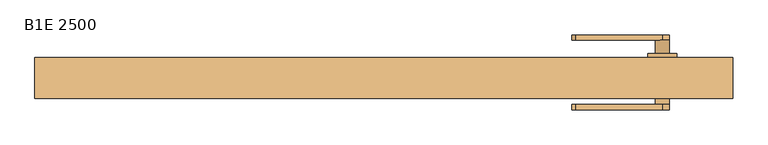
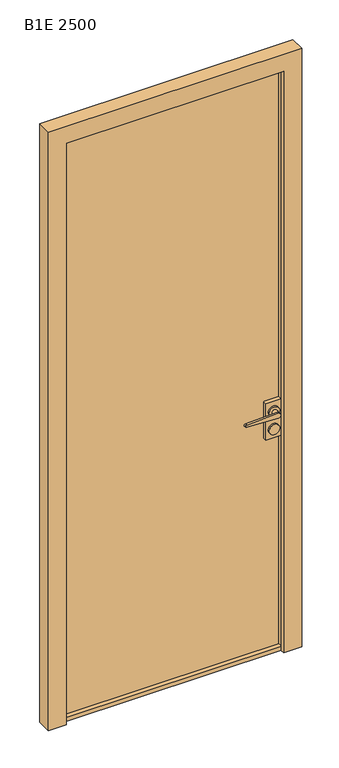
"""IFC4 building model written with IfcOpenShell, lengths in millimetres: door geometry, Mobiliário_Mobiliário de Escritório_Porta de Giro Emoldurada - BE_Marelli : B1E 2500."""

from ifc_helpers import new_model, si_unit, point, frame, frame_2d, origin, place, context, project, spatial, polyline, circle_curve, trimmed, segment, composite_curve, outline, extrude, faceted_brep, source, transform, mapped, element, save
from ifc_brep_helpers import plane_surface, cylinder_surface, advanced_brep


def b1e_2500_260b8c9e(model_context):
    return source(origin(), model_context, "Body", "SolidModel", [
        extrude(outline(polyline([(-447.5, 16.5), (-429.5, 16.5), (-429.5, -25.5), (-447.5, -25.5), (-447.5, 16.5)])), frame((0.0, 0.0, 0.2), z_axis=(0.0, 0.0, 1.0), x_axis=(1.0, 0.0, 0.0)), (0.0, 0.0, 1.0), 2448.3),
        extrude(outline(polyline([(447.5, 16.5), (447.5, -25.5), (429.5, -25.5), (429.5, 16.5), (447.5, 16.5)])), frame((0.0, 0.0, 0.2), z_axis=(0.0, 0.0, 1.0), x_axis=(1.0, 0.0, 0.0)), (0.0, 0.0, 1.0), 2448.3),
        extrude(outline(polyline([(2430.5, 429.5), (2430.5, -429.5), (18.2, -429.5), (18.2, 429.5), (896.8, 429.5), (896.8, 369.5), (1050.0, 369.5), (1050.0, 429.5), (2430.5, 429.5)])), frame((0.0, -8.5, 0.0), z_axis=(0.0, 1.0, 0.0), x_axis=(0.0, 0.0, 1.0)), (0.0, 0.0, 1.0), 8.0),
        faceted_brep([(-500.0, -42.5, 0.0), (-500.0, 16.5, 0.0), (-450.0, 16.5, 0.0), (-450.0, -27.0, 0.0), (-429.0, -27.0, 0.0), (-429.0, -42.5, 0.0), (500.0, -42.5, 0.0), (429.0, -42.5, 0.0), (429.0, -27.0, 0.0), (450.0, -27.0, 0.0), (450.0, 16.5, 0.0), (500.0, 16.5, 0.0), (-500.0, -42.5, 2500.0), (-500.0, 16.5, 2500.0), (500.0, 16.5, 2500.0), (450.0, 16.5, 2450.0), (-450.0, 16.5, 2450.0), (-450.0, -27.0, 2450.0), (450.0, -27.0, 2450.0), (429.0, -27.0, 2429.0), (-429.0, -27.0, 2429.0), (-429.0, -42.5, 2429.0), (500.0, -42.5, 2500.0), (429.0, -42.5, 2429.0)], [[[0, 1, 2, 3, 4, 5]], [[6, 7, 8, 9, 10, 11]], [[0, 12, 13, 1]], [[13, 14, 11, 10, 15, 16, 2, 1]], [[17, 3, 2, 16]], [[4, 3, 17, 18, 9, 8, 19, 20]], [[5, 4, 20, 21]], [[22, 12, 0, 5, 21, 23, 7, 6]], [[8, 7, 23, 19]], [[10, 9, 18, 15]], [[14, 22, 6, 11]], [[22, 14, 13, 12]], [[20, 19, 23, 21]], [[16, 15, 18, 17]]]),
        extrude(outline(polyline([(429.5, 16.5), (429.5, -25.5), (-429.5, -25.5), (-429.5, 16.5), (429.5, 16.5)])), frame((0.0, 0.0, 2430.5), z_axis=(0.0, 0.0, 1.0), x_axis=(1.0, 0.0, 0.0)), (0.0, 0.0, 1.0), 18.0),
        extrude(outline(polyline([(369.5, -23.55), (369.5, 14.55), (429.5, 14.55), (429.5, -23.55), (369.5, -23.55)])), frame((0.0, 0.0, 896.8), z_axis=(0.0, 0.0, 1.0), x_axis=(1.0, 0.0, 0.0)), (0.0, 0.0, 1.0), 153.2),
        extrude(outline(polyline([(429.5, 16.5), (429.5, -25.5), (-429.5, -25.5), (-429.5, 16.5), (429.5, 16.5)])), frame((0.0, 0.0, 0.2), z_axis=(0.0, 0.0, 1.0), x_axis=(1.0, 0.0, 0.0)), (0.0, 0.0, 1.0), 18.0),
        extrude(outline(composite_curve([segment(trimmed(circle_curve(frame_2d((936.55, 399.5)), 20.75), [point((936.55, 378.75))], [point((936.55, 420.25))], False, "CARTESIAN"), True, "CONTINUOUS"), segment(trimmed(circle_curve(frame_2d((936.55, 399.5)), 20.75), [point((936.55, 420.25))], [point((936.55, 378.75))], False, "CARTESIAN"), True, "CONTINUOUS")], self_intersect=False)), frame((0.0, 14.55, 0.0), z_axis=(0.0, 1.0, 0.0), x_axis=(0.0, 0.0, 1.0)), (0.0, 0.0, 1.0), 8.0),
        extrude(outline(composite_curve([segment(trimmed(circle_curve(frame_2d((936.55, 399.5)), 20.75), [point((936.55, 378.75))], [point((936.55, 420.25))], False, "CARTESIAN"), True, "CONTINUOUS"), segment(trimmed(circle_curve(frame_2d((936.55, 399.5)), 20.75), [point((936.55, 420.25))], [point((936.55, 378.75))], False, "CARTESIAN"), True, "CONTINUOUS")], self_intersect=False)), frame((0.0, -31.55, 0.0), z_axis=(0.0, 1.0, 0.0), x_axis=(0.0, 0.0, 1.0)), (0.0, 0.0, 1.0), 8.0),
        extrude(outline(composite_curve([segment(trimmed(circle_curve(frame_2d((1010.25, 399.5)), 20.75), [point((1010.25, 378.75))], [point((1010.25, 420.25))], False, "CARTESIAN"), True, "CONTINUOUS"), segment(trimmed(circle_curve(frame_2d((1010.25, 399.5)), 20.75), [point((1010.25, 420.25))], [point((1010.25, 378.75))], False, "CARTESIAN"), True, "CONTINUOUS")], self_intersect=False)), frame((0.0, -31.55, 0.0), z_axis=(0.0, 1.0, 0.0), x_axis=(0.0, 0.0, 1.0)), (0.0, 0.0, 1.0), 8.0),
        extrude(outline(composite_curve([segment(trimmed(circle_curve(frame_2d((1010.25, 399.5)), 20.75), [point((1010.25, 378.75))], [point((1010.25, 420.25))], False, "CARTESIAN"), True, "CONTINUOUS"), segment(trimmed(circle_curve(frame_2d((1010.25, 399.5)), 20.75), [point((1010.25, 420.25))], [point((1010.25, 378.75))], False, "CARTESIAN"), True, "CONTINUOUS")], self_intersect=False)), frame((0.0, 14.55, 0.0), z_axis=(0.0, 1.0, 0.0), x_axis=(0.0, 0.0, 1.0)), (0.0, 0.0, 1.0), 8.0),
        advanced_brep(
        [(389.5, 22.55, 1010.25), (409.5, 22.55, 1010.25), (409.5, 41.55, 1010.25), (399.0996794, 41.55, 1020.241984), (389.5, 41.55, 1010.25), (399.0996794, 41.55, 1000.258016), (274.5, 41.55, 1015.25), (274.5, 41.55, 1005.25), (399.0996794, 49.2, 1000.258016), (274.5, 49.2, 1005.25), (274.5, 49.2, 1015.25), (399.0996794, 49.2, 1020.241984)],
        [
            (0, 1, circle_curve(frame((399.5, 22.55, 1010.25), z_axis=(0.0, -1.0, 0.0), x_axis=(1.0, 0.0, 0.0)), 10.0)),
            (1, 0, circle_curve(frame((399.5, 22.55, 1010.25), z_axis=(0.0, -1.0, 0.0), x_axis=(1.0, 0.0, 0.0)), 10.0)),
            (1, 2),
            (2, 3, circle_curve(frame((399.5, 41.55, 1010.25), z_axis=(0.0, -1.0, 0.0), x_axis=(1.0, 0.0, 0.0)), 10.0)),
            (3, 4, circle_curve(frame((399.5, 41.55, 1010.25), z_axis=(0.0, -1.0, 0.0), x_axis=(1.0, 0.0, 0.0)), 10.0)),
            (4, 0),
            (4, 5, circle_curve(frame((399.5, 41.55, 1010.25), z_axis=(0.0, -1.0, 0.0), x_axis=(1.0, 0.0, 0.0)), 10.0)),
            (5, 2, circle_curve(frame((399.5, 41.55, 1010.25), z_axis=(0.0, -1.0, 0.0), x_axis=(1.0, 0.0, 0.0)), 10.0)),
            (3, 6),
            (6, 7, circle_curve(frame((274.5, 41.55, 1010.25), z_axis=(0.0, -1.0, 0.0), x_axis=(1.0, 0.0, 0.0)), 5.0)),
            (7, 5),
            (8, 9),
            (9, 10, circle_curve(frame((274.5, 49.2, 1010.25), z_axis=(0.0, 1.0, 0.0), x_axis=(1.0, 0.0, 0.0)), 5.0)),
            (10, 11),
            (11, 8, circle_curve(frame((399.5, 49.2, 1010.25), z_axis=(0.0, 1.0, 0.0), x_axis=(1.0, 0.0, 0.0)), 10.0)),
            (7, 9),
            (8, 5),
            (6, 10),
            (3, 11),
        ],
        [
            plane_surface(frame((409.5, 22.55, 1010.25), z_axis=(0.0, -1.0, 0.0), x_axis=(0.0, 0.0, 1.0))),
            cylinder_surface(frame((399.5, 22.55, 1010.25), z_axis=(0.0, 1.0, 0.0), x_axis=(1.0, 0.0, 0.0)), 10.0),
            plane_surface(frame((399.0996794, 41.55, 1000.258016), z_axis=(0.0, -1.0, 0.0), x_axis=(0.9991983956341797, 0.0, -0.0400320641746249))),
            plane_surface(frame((399.0996794, 49.2, 1000.258016), z_axis=(0.0, 1.0, 0.0), x_axis=(-0.9991983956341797, 0.0, 0.0400320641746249))),
            plane_surface(frame((399.0996794, 49.2, 1000.258016), z_axis=(-0.0400320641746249, 0.0, -0.9991983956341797), x_axis=(0.0, -1.0, 0.0))),
            cylinder_surface(frame((274.5, 41.55, 1010.25), z_axis=(0.0, 1.0, 0.0), x_axis=(1.0, 0.0, 0.0)), 5.0),
            plane_surface(frame((274.5, 49.2, 1015.25), z_axis=(-0.04003206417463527, 0.0, 0.9991983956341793), x_axis=(0.0, -1.0, 0.0))),
            cylinder_surface(frame((399.5, 41.55, 1010.25), z_axis=(0.0, 1.0, 0.0), x_axis=(1.0, 0.0, 0.0)), 10.0),
        ],
        [
            (0, [[1, 2]]),
            (1, [[-2, 3, 4, 5, 6]]),
            (1, [[-1, -6, 7, 8, -3]]),
            (2, [[9, 10, 11, -7, -5]]),
            (3, [[12, 13, 14, 15]]),
            (4, [[-11, 16, -12, 17]]),
            (5, [[-10, 18, -13, -16]]),
            (6, [[-9, 19, -14, -18]]),
            (7, [[-15, -19, -4, -8, -17]]),
        ],
    ),
        advanced_brep(
        [(399.0996794, -50.55, 1000.258016), (274.5, -50.55, 1005.25), (274.5, -50.55, 1015.25), (399.0996794, -50.55, 1020.241984), (389.5, -50.55, 1010.25), (399.0996794, -58.2, 1000.258016), (399.0996794, -58.2, 1020.241984), (274.5, -58.2, 1015.25), (274.5, -58.2, 1005.25), (409.5, -50.55, 1010.25), (389.5, -31.55, 1010.25), (409.5, -31.55, 1010.25)],
        [
            (0, 1),
            (1, 2, circle_curve(frame((274.5, -50.55, 1010.25), z_axis=(0.0, 1.0, 0.0), x_axis=(1.0, 0.0, 0.0)), 5.0)),
            (2, 3),
            (3, 4, circle_curve(frame((399.5, -50.55, 1010.25), z_axis=(0.0, -1.0, 0.0), x_axis=(1.0, 0.0, 0.0)), 10.0)),
            (4, 0, circle_curve(frame((399.5, -50.55, 1010.25), z_axis=(0.0, -1.0, 0.0), x_axis=(1.0, 0.0, 0.0)), 10.0)),
            (5, 6, circle_curve(frame((399.5, -58.2, 1010.25), z_axis=(0.0, -1.0, 0.0), x_axis=(1.0, 0.0, 0.0)), 10.0)),
            (6, 7),
            (7, 8, circle_curve(frame((274.5, -58.2, 1010.25), z_axis=(0.0, -1.0, 0.0), x_axis=(1.0, 0.0, 0.0)), 5.0)),
            (8, 5),
            (0, 5),
            (8, 1),
            (7, 2),
            (6, 3),
            (0, 9, circle_curve(frame((399.5, -50.55, 1010.25), z_axis=(0.0, -1.0, 0.0), x_axis=(1.0, 0.0, 0.0)), 10.0)),
            (9, 3, circle_curve(frame((399.5, -50.55, 1010.25), z_axis=(0.0, -1.0, 0.0), x_axis=(1.0, 0.0, 0.0)), 10.0)),
            (10, 11, circle_curve(frame((399.5, -31.55, 1010.25), z_axis=(0.0, 1.0, 0.0), x_axis=(1.0, 0.0, 0.0)), 10.0)),
            (11, 10, circle_curve(frame((399.5, -31.55, 1010.25), z_axis=(0.0, 1.0, 0.0), x_axis=(1.0, 0.0, 0.0)), 10.0)),
            (10, 4),
            (9, 11),
        ],
        [
            plane_surface(frame((409.5, -50.55, 1010.25), z_axis=(0.0, 1.0, 0.0), x_axis=(0.0, 0.0, -1.0))),
            plane_surface(frame((409.5, -58.2, 1010.25), z_axis=(0.0, -1.0, 0.0), x_axis=(0.0, 0.0, 1.0))),
            plane_surface(frame((274.5, -58.2, 1005.25), z_axis=(-0.04003206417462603, 0.0, -0.9991983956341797), x_axis=(0.0, 1.0, 0.0))),
            cylinder_surface(frame((274.5, -50.55, 1010.25), z_axis=(0.0, -1.0, 0.0), x_axis=(1.0, 0.0, 0.0)), 5.0),
            plane_surface(frame((399.0996794, -58.2, 1020.241984), z_axis=(-0.04003206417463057, 0.0, 0.9991983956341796), x_axis=(0.0, 1.0, 0.0))),
            cylinder_surface(frame((399.5, -50.55, 1010.25), z_axis=(0.0, -1.0, 0.0), x_axis=(1.0, 0.0, 0.0)), 10.0),
            plane_surface(frame((409.5, -31.55, 1010.25), z_axis=(0.0, 1.0, 0.0), x_axis=(0.0, 0.0, -1.0))),
            cylinder_surface(frame((399.5, -31.55, 1010.25), z_axis=(0.0, -1.0, 0.0), x_axis=(1.0, 0.0, 0.0)), 10.0),
        ],
        [
            (0, [[1, 2, 3, 4, 5]]),
            (1, [[6, 7, 8, 9]]),
            (2, [[-1, 10, -9, 11]]),
            (3, [[-2, -11, -8, 12]]),
            (4, [[-3, -12, -7, 13]]),
            (5, [[-6, -10, 14, 15, -13]]),
            (6, [[16, 17]]),
            (7, [[-16, 18, -4, -15, 19]]),
            (7, [[-17, -19, -14, -5, -18]]),
        ],
    ),
    ])


if __name__ == "__main__":
    model = new_model("IFC4")
    model_context = context("Model", 3, world=origin())
    ifc_project = project(units=[si_unit("LENGTHUNIT", "METRE", prefix="MILLI")], contexts=[model_context])
    site = spatial("IfcSite", under=ifc_project)
    building = spatial("IfcBuilding", under=site)
    placement = place(None, origin())
    b1e_2500_shape = b1e_2500_260b8c9e(model_context)
    element("IfcDoor", 1, ObjectType="Mobiliário_Mobiliário de Escritório_Porta de Giro Emoldurada - BE_Marelli : B1E 2500", at=placement, inside=building, context=model_context, shape_type="MappedRepresentation", body=[
        mapped(b1e_2500_shape, transform((0.0, 0.0, 0.0), x_axis=(1.0, 0.0, 0.0), y_axis=(0.0, 1.0, 0.0), z_axis=(0.0, 0.0, 1.0))),
    ])
    save(model, "model.ifc")
